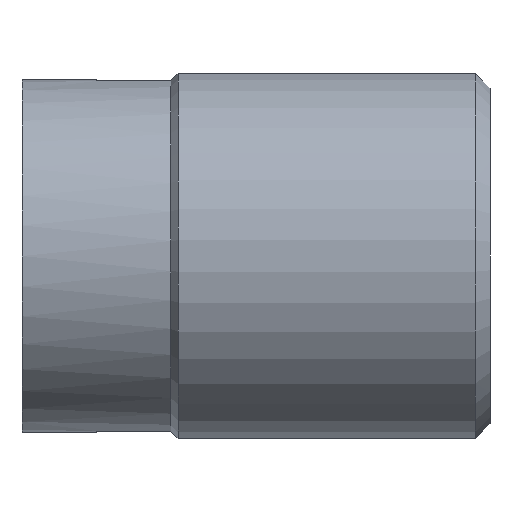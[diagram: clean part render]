
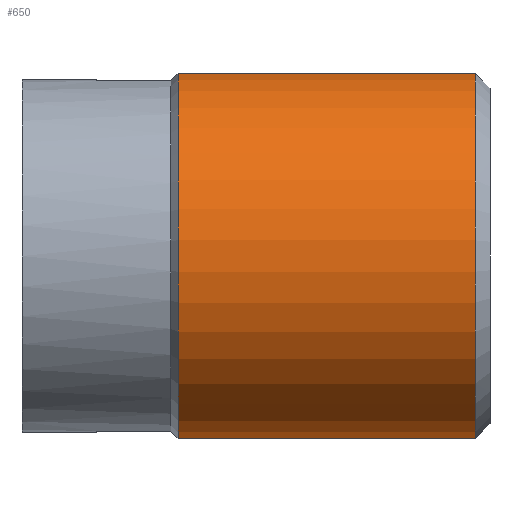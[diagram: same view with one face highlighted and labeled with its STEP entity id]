
A CAD part, front view. The second image highlights one B-rep face of the part: STEP entity #650.
In plain terms, the highlighted cylindrical face has radius 4.95 mm (diameter 9.9 mm), a partial arc.
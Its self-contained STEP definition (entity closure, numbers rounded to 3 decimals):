
#9 = VERTEX_POINT ( 'NONE', #474 ) ;
#11 = ORIENTED_EDGE ( 'NONE', *, *, #519, .F. ) ;
#41 = FACE_OUTER_BOUND ( 'NONE', #383, .T. ) ;
#64 = DIRECTION ( 'NONE',  ( 0., 0., -1. ) ) ;
#128 = AXIS2_PLACEMENT_3D ( 'NONE', #395, #788, #64 ) ;
#142 = CARTESIAN_POINT ( 'NONE',  ( 11.788, -0.6, 4.914 ) ) ;
#152 = ORIENTED_EDGE ( 'NONE', *, *, #367, .T. ) ;
#177 = CYLINDRICAL_SURFACE ( 'NONE', #570, 4.95 ) ;
#207 = CARTESIAN_POINT ( 'NONE',  ( -8.4, -0.6, 4.914 ) ) ;
#316 = DIRECTION ( 'NONE',  ( 0., 0., -1. ) ) ;
#322 = DIRECTION ( 'NONE',  ( 0., 0., -1. ) ) ;
#331 = ORIENTED_EDGE ( 'NONE', *, *, #841, .T. ) ;
#344 = VECTOR ( 'NONE', #657, 1000. ) ;
#367 = EDGE_CURVE ( 'NONE', #472, #9, #580, .T. ) ;
#383 = EDGE_LOOP ( 'NONE', ( #823, #331, #11, #152 ) ) ;
#395 = CARTESIAN_POINT ( 'NONE',  ( -0.4, 0., 0. ) ) ;
#396 = LINE ( 'NONE', #526, #726 ) ;
#411 = CARTESIAN_POINT ( 'NONE',  ( -0.4, -0.6, -4.914 ) ) ;
#426 = CARTESIAN_POINT ( 'NONE',  ( -0.4, -0.6, 4.914 ) ) ;
#430 = EDGE_CURVE ( 'NONE', #565, #9, #396, .T. ) ;
#472 = VERTEX_POINT ( 'NONE', #207 ) ;
#473 = LINE ( 'NONE', #142, #344 ) ;
#474 = CARTESIAN_POINT ( 'NONE',  ( -8.4, -0.6, -4.914 ) ) ;
#475 = AXIS2_PLACEMENT_3D ( 'NONE', #765, #829, #322 ) ;
#512 = DIRECTION ( 'NONE',  ( 1., 0., 0. ) ) ;
#519 = EDGE_CURVE ( 'NONE', #472, #604, #473, .T. ) ;
#526 = CARTESIAN_POINT ( 'NONE',  ( 11.788, -0.6, -4.914 ) ) ;
#565 = VERTEX_POINT ( 'NONE', #411 ) ;
#570 = AXIS2_PLACEMENT_3D ( 'NONE', #762, #512, #316 ) ;
#580 = CIRCLE ( 'NONE', #475, 4.95 ) ;
#604 = VERTEX_POINT ( 'NONE', #426 ) ;
#649 = DIRECTION ( 'NONE',  ( -1., 0., 0. ) ) ;
#650 = ADVANCED_FACE ( 'NONE', ( #41 ), #177, .T. ) ;
#657 = DIRECTION ( 'NONE',  ( 1., 0., 0. ) ) ;
#688 = CIRCLE ( 'NONE', #128, 4.95 ) ;
#726 = VECTOR ( 'NONE', #649, 1000. ) ;
#762 = CARTESIAN_POINT ( 'NONE',  ( 11.788, 0., 0. ) ) ;
#765 = CARTESIAN_POINT ( 'NONE',  ( -8.4, 0., 0. ) ) ;
#788 = DIRECTION ( 'NONE',  ( -1., 0., 0. ) ) ;
#823 = ORIENTED_EDGE ( 'NONE', *, *, #430, .F. ) ;
#829 = DIRECTION ( 'NONE',  ( 1., 0., 0. ) ) ;
#841 = EDGE_CURVE ( 'NONE', #565, #604, #688, .T. ) ;
